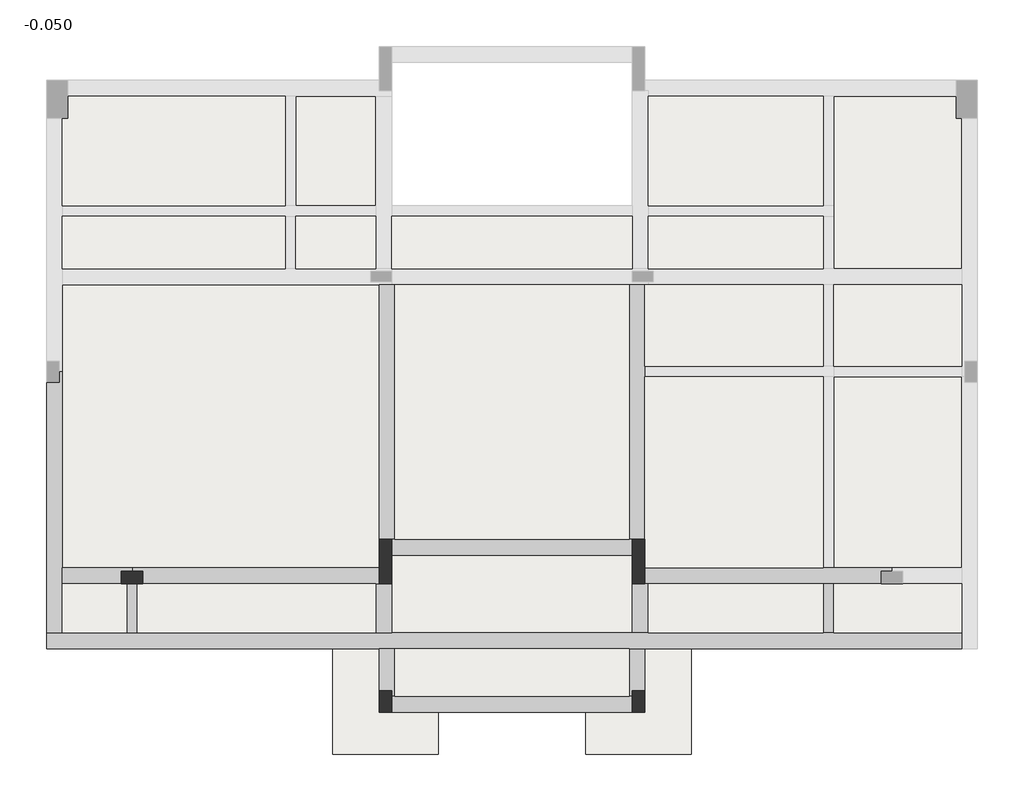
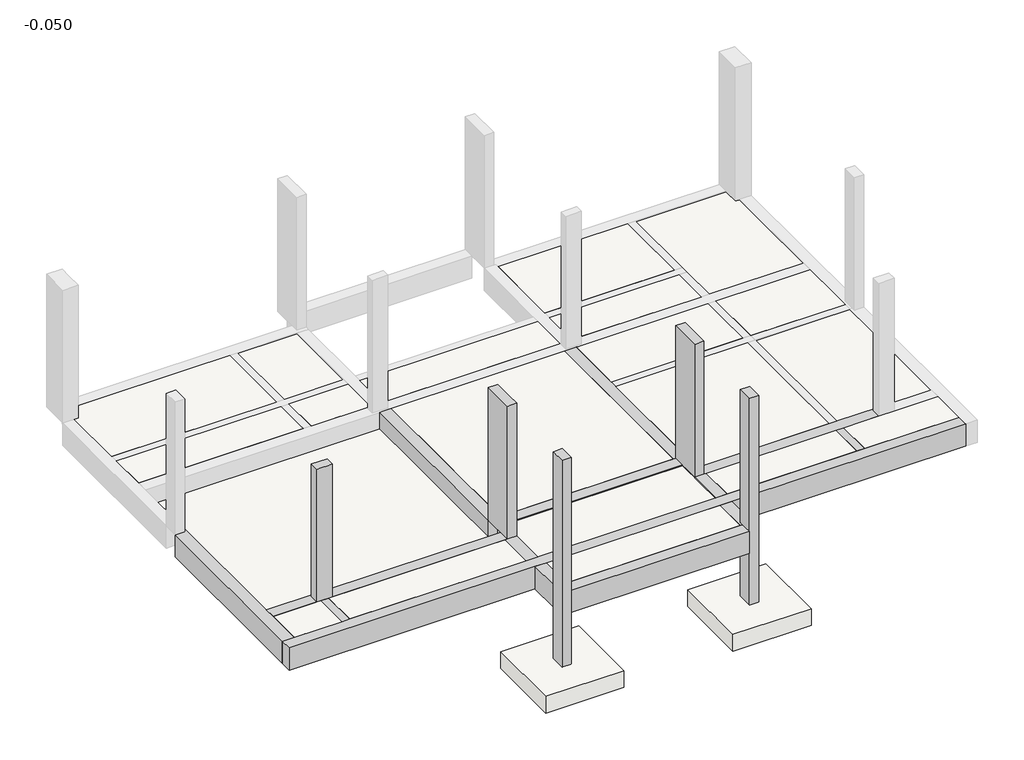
# One storey, part 1 of 2: 22 slabs, 15 beams, 5 columns.
"""IFC4 building model written with IfcOpenShell, lengths in millimetres."""

from ifc_helpers import new_model, si_unit, frame, origin, place, context, project, spatial, polyline, outline, extrude, faceted_brep, transform, mapped, element, save
from components import slab_2000mm_x_2000mm_x_450mm_d551b5b0

model = new_model("IFC4")

# Units and contexts
model_context = context("Model", 3, world=origin())
ifc_project = project(units=[si_unit("LENGTHUNIT", "METRE", prefix="MILLI")], contexts=[model_context])

# Site, building, storey
site = spatial("IfcSite", under=ifc_project)
building = spatial("IfcBuilding", under=site)
storey = spatial("IfcBuildingStorey", under=building, Name="-0.050", Elevation=-50.0)

# Beams
placement = place(None, origin())
element("IfcBeam", 1, ObjectType="混凝土 - 矩形梁 : 200 x 350mm", at=placement, inside=storey, context=model_context, shape_type="Brep", body=[
    faceted_brep([(-11718.804129, -3939.7578909, -50.0), (-11718.804129, -3939.7578909, -150.0), (-11718.804129, -3939.7578909, -400.0), (-11918.804129, -3939.7578909, -400.0), (-11918.804129, -3939.7578909, -150.0), (-11918.804129, -3939.7578909, -50.0), (-11918.804129, -4869.7578909, -50.0), (-11718.804129, -4869.7578909, -50.0), (-11918.804129, -4869.7578909, -400.0), (-11918.804129, -4869.7578909, -150.0), (-11718.804129, -4869.7578909, -400.0), (-11718.804129, -4869.7578909, -150.0)], [[[0, 1, 2, 3, 4, 5]], [[0, 5, 6, 7]], [[5, 4, 3, 8, 9, 6]], [[3, 2, 10, 8]], [[2, 1, 0, 7, 11, 10]], [[7, 6, 9, 8, 10, 11]]]),
])
element("IfcBeam", 2, ObjectType="混凝土 - 矩形梁 : 200 x 350mm", at=placement, inside=storey, context=model_context, shape_type="Brep", body=[
    faceted_brep([(1281.195871, -4869.7578909, -50.0), (1481.195871, -4869.7578909, -50.0), (1481.195871, -3939.7578909, -50.0), (1281.195871, -3939.7578909, -50.0), (1281.195871, -4869.7578909, -400.0), (1281.195871, -4869.7578909, -150.0), (1281.195871, -3939.7578909, -150.0), (1281.195871, -3939.7578909, -400.0), (1481.195871, -4869.7578909, -400.0), (1481.195871, -3939.7578909, -400.0), (1481.195871, -4869.7578909, -150.0), (1481.195871, -3939.7578909, -150.0)], [[[0, 1, 2, 3]], [[4, 5, 0, 3, 6, 7]], [[8, 4, 7, 9]], [[1, 10, 8, 9, 11, 2]], [[1, 0, 5, 4, 8, 10]], [[3, 2, 11, 9, 7, 6]]]),
])
element("IfcBeam", 3, ObjectType="混凝土 - 矩形梁 : 300 x 600mm", at=placement, inside=storey, context=model_context, shape_type="Brep", body=[
    faceted_brep([(-13438.804129, -4869.7578909, -50.0), (-13438.804129, -5169.7578909, -50.0), (-7138.804129, -5169.7578909, -50.0), (-6838.804129, -5169.7578909, -50.0), (-2398.804129, -5169.7578909, -50.0), (-2098.804129, -5169.7578909, -50.0), (3901.195871, -5169.7578909, -50.0), (3901.195871, -4869.7578909, -50.0), (1481.195871, -4869.7578909, -50.0), (1281.195871, -4869.7578909, -50.0), (-2038.804129, -4869.7578909, -50.0), (-2338.804129, -4869.7578909, -50.0), (-6898.804129, -4869.7578909, -50.0), (-7198.804129, -4869.7578909, -50.0), (-11718.804129, -4869.7578909, -50.0), (-11918.804129, -4869.7578909, -50.0), (-13138.804129, -4869.7578909, -50.0), (-13438.804129, -4869.7578909, -650.0), (3901.195871, -4869.7578909, -150.0), (3901.195871, -4869.7578909, -650.0), (-2038.804129, -4869.7578909, -650.0), (-2338.804129, -4869.7578909, -650.0), (-6898.804129, -4869.7578909, -650.0), (-7198.804129, -4869.7578909, -650.0), (-13138.804129, -4869.7578909, -650.0), (-13438.804129, -5169.7578909, -650.0), (3901.195871, -5169.7578909, -650.0), (-2098.804129, -5169.7578909, -650.0), (-2398.804129, -5169.7578909, -650.0), (-6838.804129, -5169.7578909, -650.0), (-7138.804129, -5169.7578909, -650.0)], [[[0, 1, 2, 3, 4, 5, 6, 7, 8, 9, 10, 11, 12, 13, 14, 15, 16]], [[17, 0, 16, 15, 14, 13, 12, 11, 10, 9, 8, 7, 18, 19, 20, 21, 22, 23, 24]], [[25, 17, 24, 23, 22, 21, 20, 19, 26, 27, 28, 29, 30]], [[1, 25, 30, 29, 28, 27, 26, 6, 5, 4, 3, 2]], [[1, 0, 17, 25]], [[7, 6, 26, 19, 18]]]),
])
element("IfcBeam", 4, ObjectType="混凝土 - 矩形梁 : 300 x 600mm", at=placement, inside=storey, context=model_context, shape_type="Brep", body=[
    faceted_brep([(-13138.804129, -4869.7578909, -50.0), (-13138.804129, -3939.7578909, -50.0), (-13138.804129, -3639.7578909, -50.0), (-13138.804129, 80.2421091, -50.0), (-13198.804129, 80.2421091, -50.0), (-13198.804129, -119.7578909, -50.0), (-13438.804129, -119.7578909, -50.0), (-13438.804129, -4869.7578909, -50.0), (-13138.804129, -4869.7578909, -150.0), (-13138.804129, -4869.7578909, -650.0), (-13138.804129, -3939.7578909, -650.0), (-13138.804129, -3639.7578909, -650.0), (-13138.804129, 80.2421091, -650.0), (-13438.804129, -4869.7578909, -650.0), (-13438.804129, -3939.7578909, -650.0), (-13438.804129, -119.7578909, -650.0), (-13238.804129, -119.7578909, -650.0), (-13198.804129, -119.7578909, -650.0), (-13198.804129, 80.2421091, -650.0)], [[[0, 1, 2, 3, 4, 5, 6, 7]], [[3, 2, 1, 0, 8, 9, 10, 11, 12]], [[12, 11, 10, 9, 13, 14, 15, 16, 17, 18]], [[13, 7, 6, 15, 14]], [[0, 7, 13, 9, 8]], [[3, 12, 18, 4]], [[17, 5, 4, 18]], [[5, 17, 16, 15, 6]]]),
])
element("IfcBeam", 5, ObjectType="混凝土 - 矩形梁 : 300 x 600mm", at=placement, inside=storey, context=model_context, shape_type="Brep", body=[
    faceted_brep([(2581.195871, -3639.7578909, -50.0), (1481.195871, -3639.7578909, -50.0), (1281.195871, -3639.7578909, -50.0), (-2098.804129, -3639.7578909, -50.0), (-2098.804129, -3939.7578909, -50.0), (-2038.804129, -3939.7578909, -50.0), (1281.195871, -3939.7578909, -50.0), (1481.195871, -3939.7578909, -50.0), (2381.195871, -3939.7578909, -50.0), (2381.195871, -3699.7578909, -50.0), (2581.195871, -3699.7578909, -50.0), (2581.195871, -3639.7578909, -650.0), (-2098.804129, -3639.7578909, -650.0), (-2098.804129, -3639.7578909, -150.0), (2581.195871, -3699.7578909, -650.0), (2381.195871, -3699.7578909, -650.0), (2381.195871, -3739.7578909, -650.0), (2381.195871, -3939.7578909, -650.0), (-2038.804129, -3939.7578909, -650.0), (-2098.804129, -3939.7578909, -650.0), (-2098.804129, -3739.7578909, -650.0)], [[[0, 1, 2, 3, 4, 5, 6, 7, 8, 9, 10]], [[0, 11, 12, 13, 3, 2, 1]], [[12, 11, 14, 15, 16, 17, 18, 19, 20]], [[4, 19, 18, 17, 8, 7, 6, 5]], [[4, 3, 13, 12, 20, 19]], [[9, 15, 14, 10]], [[15, 9, 8, 17, 16]], [[11, 0, 10, 14]]]),
])
element("IfcBeam", 6, ObjectType="混凝土 - 矩形梁 : 300 x 600mm", at=placement, inside=storey, context=model_context, shape_type="Brep", body=[
    faceted_brep([(-6898.804129, -3399.7578909, -50.0), (-6898.804129, -3099.7578909, -50.0), (-6898.804129, -3099.7578909, -650.0), (-6898.804129, -3299.7578909, -650.0), (-6898.804129, -3399.7578909, -650.0), (-6898.804129, -3399.7578909, -170.0), (-6898.804129, -3399.7578909, -70.0), (-2338.804129, -3399.7578909, -50.0), (-2338.804129, -3099.7578909, -50.0), (-2398.804129, -3099.7578909, -50.0), (-6838.804129, -3099.7578909, -50.0), (-2338.804129, -3099.7578909, -650.0), (-2398.804129, -3099.7578909, -650.0), (-6838.804129, -3099.7578909, -650.0), (-2338.804129, -3299.7578909, -650.0), (-2338.804129, -3399.7578909, -650.0), (-2338.804129, -3399.7578909, -170.0), (-2338.804129, -3399.7578909, -70.0)], [[[0, 1, 2, 3, 4, 5, 6]], [[1, 0, 7, 8, 9, 10]], [[2, 1, 10, 9, 8, 11, 12, 13]], [[4, 3, 2, 13, 12, 11, 14, 15]], [[0, 6, 5, 4, 15, 16, 17, 7]], [[7, 17, 16, 15, 14, 11, 8]]]),
])
element("IfcBeam", 7, ObjectType="混凝土 - 矩形梁 : 300 x 600mm", at=placement, inside=storey, context=model_context, shape_type="Brep", body=[
    faceted_brep([(-7138.804129, -3639.7578909, -50.0), (-11818.804129, -3639.7578909, -50.0), (-11818.804129, -3699.7578909, -50.0), (-11618.804129, -3699.7578909, -50.0), (-11618.804129, -3939.7578909, -50.0), (-7198.804129, -3939.7578909, -50.0), (-7138.804129, -3939.7578909, -50.0), (-7138.804129, -3639.7578909, -500.0), (-7138.804129, -3639.7578909, -650.0), (-11818.804129, -3639.7578909, -650.0), (-7138.804129, -3739.7578909, -650.0), (-7138.804129, -3939.7578909, -650.0), (-7198.804129, -3939.7578909, -650.0), (-11618.804129, -3939.7578909, -650.0), (-11618.804129, -3739.7578909, -650.0), (-11618.804129, -3699.7578909, -650.0), (-11818.804129, -3699.7578909, -650.0)], [[[0, 1, 2, 3, 4, 5, 6]], [[1, 0, 7, 8, 9]], [[9, 8, 10, 11, 12, 13, 14, 15, 16]], [[11, 6, 5, 4, 13, 12]], [[0, 6, 11, 10, 8, 7]], [[15, 3, 2, 16]], [[3, 15, 14, 13, 4]], [[1, 9, 16, 2]]]),
])
element("IfcBeam", 8, ObjectType="混凝土 - 矩形梁 : 300 x 600mm", at=placement, inside=storey, context=model_context, shape_type="Brep", body=[
    faceted_brep([(-12018.804129, -3699.7578909, -50.0), (-11818.804129, -3699.7578909, -50.0), (-11818.804129, -3639.7578909, -50.0), (-13138.804129, -3639.7578909, -50.0), (-13138.804129, -3939.7578909, -50.0), (-12018.804129, -3939.7578909, -50.0), (-11818.804129, -3639.7578909, -650.0), (-13138.804129, -3639.7578909, -650.0), (-13138.804129, -3639.7578909, -500.0), (-11818.804129, -3699.7578909, -650.0), (-12018.804129, -3699.7578909, -650.0), (-12018.804129, -3739.7578909, -650.0), (-12018.804129, -3939.7578909, -650.0), (-13138.804129, -3939.7578909, -650.0), (-13138.804129, -3939.7578909, -150.0)], [[[0, 1, 2, 3, 4, 5]], [[2, 6, 7, 8, 3]], [[9, 10, 11, 12, 13, 7, 6]], [[12, 5, 4, 14, 13]], [[0, 10, 9, 1]], [[10, 0, 5, 12, 11]], [[4, 3, 8, 7, 13, 14]], [[6, 2, 1, 9]]]),
])
element("IfcBeam", 9, ObjectType="混凝土 - 矩形梁 : 300 x 600mm", at=placement, inside=storey, context=model_context, shape_type="Brep", body=[
    faceted_brep([(-6838.804129, -3099.7578909, -50.0), (-6898.804129, -3099.7578909, -50.0), (-7138.804129, -3099.7578909, -50.0), (-7138.804129, -3099.7578909, -650.0), (-6898.804129, -3099.7578909, -650.0), (-6838.804129, -3099.7578909, -650.0), (-6838.804129, -3099.7578909, -150.0), (-6838.804129, 1730.2421091, -50.0), (-6898.804129, 1730.2421091, -50.0), (-7138.804129, 1730.2421091, -50.0), (-7138.804129, 1730.2421091, -500.0), (-7138.804129, 1730.2421091, -650.0), (-6898.804129, 1730.2421091, -650.0), (-6838.804129, 1730.2421091, -650.0), (-6838.804129, 1730.2421091, -150.0)], [[[0, 1, 2, 3, 4, 5, 6]], [[2, 1, 0, 7, 8, 9]], [[3, 2, 9, 10, 11]], [[5, 4, 3, 11, 12, 13]], [[0, 6, 5, 13, 14, 7]], [[7, 14, 13, 12, 11, 10, 9, 8]]]),
])
element("IfcBeam", 10, ObjectType="混凝土 - 矩形梁 : 300 x 600mm", at=placement, inside=storey, context=model_context, shape_type="Brep", body=[
    faceted_brep([(-2098.804129, -3099.7578909, -50.0), (-2338.804129, -3099.7578909, -50.0), (-2398.804129, -3099.7578909, -50.0), (-2398.804129, -3099.7578909, -150.0), (-2398.804129, -3099.7578909, -650.0), (-2338.804129, -3099.7578909, -650.0), (-2098.804129, -3099.7578909, -650.0), (-2098.804129, -19.7578909, -50.0), (-2098.804129, 180.2421091, -50.0), (-2098.804129, 1730.2421091, -50.0), (-2398.804129, 1730.2421091, -50.0), (-2098.804129, 1730.2421091, -650.0), (-2098.804129, 1730.2421091, -150.0), (-2398.804129, 1730.2421091, -650.0), (-2398.804129, 1730.2421091, -150.0)], [[[0, 1, 2, 3, 4, 5, 6]], [[2, 1, 0, 7, 8, 9, 10]], [[0, 6, 11, 12, 9, 8, 7]], [[6, 5, 4, 13, 11]], [[4, 3, 2, 10, 14, 13]], [[10, 9, 12, 11, 13, 14]]]),
])
element("IfcBeam", 11, ObjectType="混凝土 - 矩形梁 : 300 x 600mm", at=placement, inside=storey, context=model_context, shape_type="Brep", body=[
    faceted_brep([(-6898.804129, -3939.7578909, -50.0), (-7138.804129, -3939.7578909, -50.0), (-7198.804129, -3939.7578909, -50.0), (-7198.804129, -4869.7578909, -50.0), (-6898.804129, -4869.7578909, -50.0), (-6898.804129, -3939.7578909, -650.0), (-6898.804129, -4869.7578909, -70.0), (-6898.804129, -4869.7578909, -170.0), (-6898.804129, -4869.7578909, -650.0), (-7198.804129, -3939.7578909, -650.0), (-7138.804129, -3939.7578909, -650.0), (-7198.804129, -4869.7578909, -650.0), (-7198.804129, -3939.7578909, -150.0), (-7198.804129, -4869.7578909, -150.0)], [[[0, 1, 2, 3, 4]], [[5, 0, 4, 6, 7, 8]], [[9, 10, 5, 8, 11]], [[2, 12, 9, 11, 13, 3]], [[2, 1, 0, 5, 10, 9, 12]], [[4, 3, 13, 11, 8, 7, 6]]]),
])
element("IfcBeam", 12, ObjectType="混凝土 - 矩形梁 : 300 x 600mm", at=placement, inside=storey, context=model_context, shape_type="Brep", body=[
    faceted_brep([(-2038.804129, -3939.7578909, -50.0), (-2098.804129, -3939.7578909, -50.0), (-2338.804129, -3939.7578909, -50.0), (-2338.804129, -4869.7578909, -50.0), (-2038.804129, -4869.7578909, -50.0), (-2038.804129, -3939.7578909, -650.0), (-2038.804129, -3939.7578909, -150.0), (-2038.804129, -4869.7578909, -150.0), (-2038.804129, -4869.7578909, -650.0), (-2338.804129, -3939.7578909, -650.0), (-2098.804129, -3939.7578909, -650.0), (-2338.804129, -4869.7578909, -650.0), (-2338.804129, -4869.7578909, -170.0), (-2338.804129, -4869.7578909, -70.0)], [[[0, 1, 2, 3, 4]], [[5, 6, 0, 4, 7, 8]], [[9, 10, 5, 8, 11]], [[2, 9, 11, 12, 13, 3]], [[2, 1, 0, 6, 5, 10, 9]], [[4, 3, 13, 12, 11, 8, 7]]]),
])
element("IfcBeam", 13, ObjectType="混凝土 - 矩形梁 : 300 x 600mm", at=placement, inside=storey, context=model_context, shape_type="Brep", body=[
    faceted_brep([(-2338.804129, -6069.7578909, -50.0), (-2338.804129, -6369.7578909, -50.0), (-2338.804129, -6369.7578909, -650.0), (-2338.804129, -6069.7578909, -650.0), (-6898.804129, -6069.7578909, -50.0), (-6898.804129, -6069.7578909, -650.0), (-6898.804129, -6369.7578909, -650.0), (-6898.804129, -6369.7578909, -50.0), (-2398.804129, -6069.7578909, -50.0), (-6838.804129, -6069.7578909, -50.0), (-6838.804129, -6069.7578909, -650.0), (-2398.804129, -6069.7578909, -650.0)], [[[0, 1, 2, 3]], [[4, 5, 6, 7]], [[1, 0, 8, 9, 4, 7]], [[2, 1, 7, 6]], [[3, 2, 6, 5, 10, 11]], [[0, 3, 11, 10, 5, 4, 9, 8]]]),
])
element("IfcBeam", 14, ObjectType="混凝土 - 矩形梁 : 300 x 600mm", at=placement, inside=storey, context=model_context, shape_type="Brep", body=[
    faceted_brep([(-2098.804129, -5169.7578909, -50.0), (-2398.804129, -5169.7578909, -50.0), (-2398.804129, -6069.7578909, -50.0), (-2338.804129, -6069.7578909, -50.0), (-2338.804129, -5969.7578909, -50.0), (-2098.804129, -5969.7578909, -50.0), (-2098.804129, -5169.7578909, -650.0), (-2098.804129, -5969.7578909, -650.0), (-2398.804129, -5169.7578909, -650.0), (-2338.804129, -5969.7578909, -650.0), (-2338.804129, -6069.7578909, -650.0), (-2398.804129, -6069.7578909, -650.0), (-2398.804129, -5169.7578909, -150.0), (-2398.804129, -6069.7578909, -150.0)], [[[0, 1, 2, 3, 4, 5]], [[6, 0, 5, 7]], [[8, 6, 7, 9, 10, 11]], [[1, 12, 8, 11, 13, 2]], [[9, 4, 3, 10]], [[4, 9, 7, 5]], [[1, 0, 6, 8, 12]], [[3, 2, 13, 11, 10]]]),
])
element("IfcBeam", 15, ObjectType="混凝土 - 矩形梁 : 300 x 600mm", at=placement, inside=storey, context=model_context, shape_type="Brep", body=[
    faceted_brep([(-6838.804129, -5169.7578909, -50.0), (-7138.804129, -5169.7578909, -50.0), (-7138.804129, -5969.7578909, -50.0), (-6898.804129, -5969.7578909, -50.0), (-6898.804129, -6069.7578909, -50.0), (-6838.804129, -6069.7578909, -50.0), (-6838.804129, -5169.7578909, -650.0), (-6838.804129, -5169.7578909, -150.0), (-6838.804129, -6069.7578909, -150.0), (-6838.804129, -6069.7578909, -650.0), (-7138.804129, -5169.7578909, -650.0), (-6898.804129, -6069.7578909, -650.0), (-6898.804129, -5969.7578909, -650.0), (-7138.804129, -5969.7578909, -650.0)], [[[0, 1, 2, 3, 4, 5]], [[6, 7, 0, 5, 8, 9]], [[10, 6, 9, 11, 12, 13]], [[1, 10, 13, 2]], [[3, 12, 11, 4]], [[12, 3, 2, 13]], [[1, 0, 7, 6, 10]], [[5, 4, 11, 9, 8]]]),
])

# Columns
element("IfcColumn", 16, ObjectType="混凝土 - 矩形 - 柱 : 240 x 400mm", at=placement, inside=storey, context=model_context, shape_type="Brep", body=[
    faceted_brep([(-6898.804129, -5969.7578909, -2050.0), (-6898.804129, -6369.7578909, -2050.0), (-7138.804129, -6369.7578909, -2050.0), (-7138.804129, -5969.7578909, -2050.0), (-6898.804129, -5969.7578909, 3550.0), (-6898.804129, -6069.7578909, 3550.0), (-6898.804129, -6369.7578909, 3550.0), (-6898.804129, -6369.7578909, 2950.0), (-6898.804129, -6369.7578909, -50.0), (-6898.804129, -6369.7578909, -650.0), (-6898.804129, -5969.7578909, 2950.0), (-7138.804129, -6369.7578909, 3550.0), (-7138.804129, -5969.7578909, 3550.0), (-7138.804129, -5969.7578909, 2950.0)], [[[0, 1, 2, 3]], [[4, 5, 6, 7, 8, 9, 1, 0, 10]], [[6, 11, 2, 1, 9, 8, 7]], [[11, 12, 13, 3, 2]], [[12, 4, 10, 0, 3, 13]], [[4, 12, 11, 6, 5]]]),
])
element("IfcColumn", 17, ObjectType="混凝土 - 矩形 - 柱 : 240 x 400mm", at=placement, inside=storey, context=model_context, shape_type="Brep", body=[
    faceted_brep([(-2098.804129, -5969.7578909, -2050.0), (-2098.804129, -6369.7578909, -2050.0), (-2338.804129, -6369.7578909, -2050.0), (-2338.804129, -5969.7578909, -2050.0), (-2098.804129, -5969.7578909, 3550.0), (-2098.804129, -6369.7578909, 3550.0), (-2098.804129, -5969.7578909, 2950.0), (-2338.804129, -6369.7578909, 3550.0), (-2338.804129, -6369.7578909, 2950.0), (-2338.804129, -6369.7578909, -50.0), (-2338.804129, -6369.7578909, -650.0), (-2338.804129, -6069.7578909, 3550.0), (-2338.804129, -5969.7578909, 3550.0), (-2338.804129, -5969.7578909, 2950.0)], [[[0, 1, 2, 3]], [[4, 5, 1, 0, 6]], [[5, 7, 8, 9, 10, 2, 1]], [[7, 11, 12, 13, 3, 2, 10, 9, 8]], [[12, 4, 6, 0, 3, 13]], [[4, 12, 11, 7, 5]]]),
])
element("IfcColumn", 18, ObjectType="混凝土 - 矩形 - 柱 : 240 x 400mm", at=placement, inside=storey, context=model_context, shape_type="Brep", body=[
    faceted_brep([(-12018.804129, -3699.7578909, -50.0), (-11618.804129, -3699.7578909, -50.0), (-11618.804129, -3939.7578909, -50.0), (-12018.804129, -3939.7578909, -50.0), (-12018.804129, -3699.7578909, 3550.0), (-11618.804129, -3699.7578909, 3550.0), (-11618.804129, -3939.7578909, 3550.0), (-11718.804129, -3939.7578909, 3550.0), (-11918.804129, -3939.7578909, 3550.0), (-12018.804129, -3939.7578909, 3550.0)], [[[0, 1, 2, 3]], [[4, 5, 1, 0]], [[5, 6, 2, 1]], [[6, 7, 8, 9, 3, 2]], [[9, 4, 0, 3]], [[4, 9, 8, 7, 6, 5]]]),
])
element("IfcColumn", 19, ObjectType="混凝土 - 矩形 - 柱 : 240 x 840mm", at=placement, inside=storey, context=model_context, shape_type="Brep", body=[
    faceted_brep([(-6898.804129, -3099.7578909, -50.0), (-6898.804129, -3939.7578909, -50.0), (-7138.804129, -3939.7578909, -50.0), (-7138.804129, -3099.7578909, -50.0), (-6898.804129, -3099.7578909, 3550.0), (-6898.804129, -3399.7578909, 3550.0), (-6898.804129, -3639.7578909, 3550.0), (-6898.804129, -3939.7578909, 3550.0), (-6898.804129, -3099.7578909, 2950.0), (-7138.804129, -3939.7578909, 3550.0), (-7138.804129, -3099.7578909, 3550.0), (-7138.804129, -3099.7578909, 2950.0)], [[[0, 1, 2, 3]], [[4, 5, 6, 7, 1, 0, 8]], [[7, 9, 2, 1]], [[9, 10, 11, 3, 2]], [[10, 4, 8, 0, 3, 11]], [[4, 10, 9, 7, 6, 5]]]),
])
element("IfcColumn", 20, ObjectType="混凝土 - 矩形 - 柱 : 240 x 840mm", at=placement, inside=storey, context=model_context, shape_type="Brep", body=[
    faceted_brep([(-2098.804129, -3099.7578909, -50.0), (-2098.804129, -3939.7578909, -50.0), (-2338.804129, -3939.7578909, -50.0), (-2338.804129, -3099.7578909, -50.0), (-2098.804129, -3099.7578909, 3550.0), (-2098.804129, -3639.7578909, 3550.0), (-2098.804129, -3939.7578909, 3550.0), (-2098.804129, -3099.7578909, 2950.0), (-2338.804129, -3939.7578909, 3550.0), (-2338.804129, -3639.7578909, 3550.0), (-2338.804129, -3399.7578909, 3550.0), (-2338.804129, -3099.7578909, 3550.0)], [[[0, 1, 2, 3]], [[4, 5, 6, 1, 0, 7]], [[6, 8, 2, 1]], [[8, 9, 10, 11, 3, 2]], [[11, 4, 7, 0, 3]], [[4, 11, 10, 9, 8, 6, 5]]]),
])

# Slabs
element("IfcSlab", 21, ObjectType="常规 - 100mm", at=placement, inside=storey, context=model_context, shape_type="SweptSolid", body=[
    extrude(outline(polyline([(-8918.804129, 3220.2421091), (-13138.804129, 3220.2421091), (-13138.804129, 4880.2421091), (-13038.804129, 4880.2421091), (-13038.804129, 5300.2421091), (-8918.804129, 5300.2421091), (-8918.804129, 3220.2421091)])), frame((0.0, 0.0, -150.0), z_axis=(0.0, 0.0, 1.0), x_axis=(1.0, 0.0, 0.0)), (0.0, 0.0, 1.0), 100.0),
])
element("IfcSlab", 22, ObjectType="常规 - 100mm", at=placement, inside=storey, context=model_context, shape_type="SweptSolid", body=[
    extrude(outline(polyline([(1281.195871, 5300.2421091), (1281.195871, 3220.2421091), (-2038.804129, 3220.2421091), (-2038.804129, 5300.2421091), (1281.195871, 5300.2421091)])), frame((0.0, 0.0, -150.0), z_axis=(0.0, 0.0, 1.0), x_axis=(1.0, 0.0, 0.0)), (0.0, 0.0, 1.0), 100.0),
])
element("IfcSlab", 23, ObjectType="常规 - 100mm", at=placement, inside=storey, context=model_context, shape_type="SweptSolid", body=[
    extrude(outline(polyline([(-8918.804129, 3020.2421091), (-8918.804129, 2030.2421091), (-13138.804129, 2030.2421091), (-13138.804129, 3020.2421091), (-8918.804129, 3020.2421091)])), frame((0.0, 0.0, -150.0), z_axis=(0.0, 0.0, 1.0), x_axis=(1.0, 0.0, 0.0)), (0.0, 0.0, 1.0), 100.0),
])
element("IfcSlab", 24, ObjectType="常规 - 100mm", at=placement, inside=storey, context=model_context, shape_type="SweptSolid", body=[
    extrude(outline(polyline([(-7198.804129, 3020.2421091), (-7198.804129, 2030.2421091), (-8718.804129, 2030.2421091), (-8718.804129, 3020.2421091), (-7198.804129, 3020.2421091)])), frame((0.0, 0.0, -150.0), z_axis=(0.0, 0.0, 1.0), x_axis=(1.0, 0.0, 0.0)), (0.0, 0.0, 1.0), 100.0),
])
element("IfcSlab", 25, ObjectType="常规 - 100mm", at=placement, inside=storey, context=model_context, shape_type="SweptSolid", body=[
    extrude(outline(polyline([(-2338.804129, 3020.2421091), (-2338.804129, 2030.2421091), (-6898.804129, 2030.2421091), (-6898.804129, 3020.2421091), (-2338.804129, 3020.2421091)])), frame((0.0, 0.0, -150.0), z_axis=(0.0, 0.0, 1.0), x_axis=(1.0, 0.0, 0.0)), (0.0, 0.0, 1.0), 100.0),
])
element("IfcSlab", 26, ObjectType="常规 - 100mm", at=placement, inside=storey, context=model_context, shape_type="SweptSolid", body=[
    extrude(outline(polyline([(1281.195871, 3020.2421091), (1281.195871, 2030.2421091), (-2038.804129, 2030.2421091), (-2038.804129, 3020.2421091), (1281.195871, 3020.2421091)])), frame((0.0, 0.0, -150.0), z_axis=(0.0, 0.0, 1.0), x_axis=(1.0, 0.0, 0.0)), (0.0, 0.0, 1.0), 100.0),
])
element("IfcSlab", 27, ObjectType="常规 - 100mm", at=placement, inside=storey, context=model_context, shape_type="Brep", body=[
    faceted_brep([(-11918.804129, -3939.7578909, -150.0), (-11918.804129, -4869.7578909, -150.0), (-13138.804129, -4869.7578909, -150.0), (-13138.804129, -3939.7578909, -150.0), (-11918.804129, -3939.7578909, -50.0), (-12018.804129, -3939.7578909, -50.0), (-13138.804129, -3939.7578909, -50.0), (-13138.804129, -4869.7578909, -50.0), (-11918.804129, -4869.7578909, -50.0)], [[[0, 1, 2, 3]], [[4, 5, 6, 7, 8]], [[1, 0, 4, 8]], [[2, 1, 8, 7]], [[3, 2, 7, 6]], [[0, 3, 6, 5, 4]]]),
])
element("IfcSlab", 28, ObjectType="常规 - 100mm", at=placement, inside=storey, context=model_context, shape_type="Brep", body=[
    faceted_brep([(-7198.804129, -3939.7578909, -150.0), (-7198.804129, -4869.7578909, -150.0), (-11718.804129, -4869.7578909, -150.0), (-11718.804129, -3939.7578909, -150.0), (-7198.804129, -3939.7578909, -50.0), (-11618.804129, -3939.7578909, -50.0), (-11718.804129, -3939.7578909, -50.0), (-11718.804129, -4869.7578909, -50.0), (-7198.804129, -4869.7578909, -50.0)], [[[0, 1, 2, 3]], [[4, 5, 6, 7, 8]], [[1, 0, 4, 8]], [[2, 1, 8, 7]], [[3, 2, 7, 6]], [[0, 3, 6, 5, 4]]]),
])
element("IfcSlab", 29, ObjectType="常规 - 100mm", at=placement, inside=storey, context=model_context, shape_type="SweptSolid", body=[
    extrude(outline(polyline([(1281.195871, -3939.7578909), (1281.195871, -4869.7578909), (-2038.804129, -4869.7578909), (-2038.804129, -3939.7578909), (1281.195871, -3939.7578909)])), frame((0.0, 0.0, -150.0), z_axis=(0.0, 0.0, 1.0), x_axis=(1.0, 0.0, 0.0)), (0.0, 0.0, 1.0), 100.0),
])
element("IfcSlab", 30, ObjectType="常规 - 100mm", at=placement, inside=storey, context=model_context, shape_type="Brep", body=[
    faceted_brep([(3901.195871, -3939.7578909, -150.0), (3901.195871, -4869.7578909, -150.0), (1481.195871, -4869.7578909, -150.0), (1481.195871, -3939.7578909, -150.0), (3901.195871, -3939.7578909, -50.0), (2781.195871, -3939.7578909, -50.0), (2381.195871, -3939.7578909, -50.0), (1481.195871, -3939.7578909, -50.0), (1481.195871, -4869.7578909, -50.0), (3901.195871, -4869.7578909, -50.0)], [[[0, 1, 2, 3]], [[4, 5, 6, 7, 8, 9]], [[1, 0, 4, 9]], [[2, 1, 9, 8]], [[3, 2, 8, 7]], [[0, 3, 7, 6, 5, 4]]]),
])
element("IfcSlab", 31, ObjectType="常规 - 160mm", at=placement, inside=storey, context=model_context, shape_type="Brep", body=[
    faceted_brep([(-13138.804129, 1730.2421091, -660.0), (-7138.804129, 1730.2421091, -660.0), (-7138.804129, -3639.7578909, -660.0), (-13138.804129, -3639.7578909, -660.0), (-13138.804129, 1730.2421091, -500.0), (-13138.804129, -3639.7578909, -500.0), (-7138.804129, -3639.7578909, -500.0), (-7138.804129, 1730.2421091, -500.0), (-13138.804129, 1730.2421091, -650.0), (-7138.804129, 1730.2421091, -650.0), (-7138.804129, -3639.7578909, -650.0), (-13138.804129, -3639.7578909, -650.0)], [[[0, 1, 2, 3]], [[4, 5, 6, 7]], [[1, 0, 8, 4, 7, 9]], [[2, 1, 9, 7, 6, 10]], [[3, 2, 10, 6, 5, 11]], [[0, 3, 11, 5, 4, 8]]]),
])
element("IfcSlab", 32, ObjectType="常规 - 100mm", at=placement, inside=storey, context=model_context, shape_type="SweptSolid", body=[
    extrude(outline(polyline([(-7198.804129, 5300.2421091), (-7198.804129, 3220.2421091), (-8718.804129, 3220.2421091), (-8718.804129, 5300.2421091), (-7198.804129, 5300.2421091)])), frame((0.0, 0.0, -170.0), z_axis=(0.0, 0.0, 1.0), x_axis=(1.0, 0.0, 0.0)), (0.0, 0.0, 1.0), 100.0),
])
element("IfcSlab", 33, ObjectType="常规 - 100mm", at=placement, inside=storey, context=model_context, shape_type="SweptSolid", body=[
    extrude(outline(polyline([(-2398.804129, 1730.2421091), (-2398.804129, -3099.7578909), (-6838.804129, -3099.7578909), (-6838.804129, 1730.2421091), (-2398.804129, 1730.2421091)])), frame((0.0, 0.0, -150.0), z_axis=(0.0, 0.0, 1.0), x_axis=(1.0, 0.0, 0.0)), (0.0, 0.0, 1.0), 100.0),
])
element("IfcSlab", 34, ObjectType="常规 - 100mm", at=placement, inside=storey, context=model_context, shape_type="SweptSolid", body=[
    extrude(outline(polyline([(-2338.804129, -3399.7578909), (-2338.804129, -4869.7578909), (-6898.804129, -4869.7578909), (-6898.804129, -3399.7578909), (-2338.804129, -3399.7578909)])), frame((0.0, 0.0, -170.0), z_axis=(0.0, 0.0, 1.0), x_axis=(1.0, 0.0, 0.0)), (0.0, 0.0, 1.0), 100.0),
])
element("IfcSlab", 35, ObjectType="常规 - 100mm", at=placement, inside=storey, context=model_context, shape_type="SweptSolid", body=[
    extrude(outline(polyline([(-2398.804129, -5169.7578909), (-2398.804129, -6069.7578909), (-6838.804129, -6069.7578909), (-6838.804129, -5169.7578909), (-2398.804129, -5169.7578909)])), frame((0.0, 0.0, -150.0), z_axis=(0.0, 0.0, 1.0), x_axis=(1.0, 0.0, 0.0)), (0.0, 0.0, 1.0), 100.0),
])
element("IfcSlab", 36, ObjectType="常规 - 100mm", at=placement, inside=storey, context=model_context, shape_type="Brep", body=[
    faceted_brep([(1281.195871, 1730.2421091, -150.0), (1281.195871, 180.2421091, -150.0), (-2098.804129, 180.2421091, -150.0), (-2098.804129, 1730.2421091, -150.0), (1281.195871, 1730.2421091, -50.0), (-2038.804129, 1730.2421091, -50.0), (-2098.804129, 1730.2421091, -50.0), (-2098.804129, 180.2421091, -50.0), (1281.195871, 180.2421091, -50.0)], [[[0, 1, 2, 3]], [[4, 5, 6, 7, 8]], [[1, 0, 4, 8]], [[2, 1, 8, 7]], [[3, 2, 7, 6]], [[0, 3, 6, 5, 4]]]),
])
element("IfcSlab", 37, ObjectType="常规 - 100mm", at=placement, inside=storey, context=model_context, shape_type="Brep", body=[
    faceted_brep([(1281.195871, -19.7578909, -150.0), (1281.195871, -3639.7578909, -150.0), (-2098.804129, -3639.7578909, -150.0), (-2098.804129, -19.7578909, -150.0), (1281.195871, -19.7578909, -50.0), (-2098.804129, -19.7578909, -50.0), (-2098.804129, -3099.7578909, -50.0), (-2098.804129, -3639.7578909, -50.0), (1281.195871, -3639.7578909, -50.0)], [[[0, 1, 2, 3]], [[4, 5, 6, 7, 8]], [[1, 0, 4, 8]], [[2, 1, 8, 7]], [[3, 2, 7, 6, 5]], [[0, 3, 5, 4]]]),
])
element("IfcSlab", 38, ObjectType="常规 - 100mm", at=placement, inside=storey, context=model_context, shape_type="SweptSolid", body=[
    extrude(outline(polyline([(1481.195871, 5300.2421091), (3801.195871, 5300.2421091), (3801.195871, 4880.2421091), (3901.195871, 4880.2421091), (3901.195871, 2030.2421091), (1481.195871, 2030.2421091), (1481.195871, 5300.2421091)])), frame((0.0, 0.0, -170.0), z_axis=(0.0, 0.0, 1.0), x_axis=(1.0, 0.0, 0.0)), (0.0, 0.0, 1.0), 100.0),
])
element("IfcSlab", 39, ObjectType="常规 - 100mm", at=placement, inside=storey, context=model_context, shape_type="SweptSolid", body=[
    extrude(outline(polyline([(3901.195871, 1730.2421091), (3901.195871, 180.2421091), (1481.195871, 180.2421091), (1481.195871, 1730.2421091), (3901.195871, 1730.2421091)])), frame((0.0, 0.0, -150.0), z_axis=(0.0, 0.0, 1.0), x_axis=(1.0, 0.0, 0.0)), (0.0, 0.0, 1.0), 100.0),
])
element("IfcSlab", 40, ObjectType="常规 - 100mm", at=placement, inside=storey, context=model_context, shape_type="SweptSolid", body=[
    extrude(outline(polyline([(3901.195871, -19.7578909), (3901.195871, -3639.7578909), (1481.195871, -3639.7578909), (1481.195871, -19.7578909), (3901.195871, -19.7578909)])), frame((0.0, 0.0, -170.0), z_axis=(0.0, 0.0, 1.0), x_axis=(1.0, 0.0, 0.0)), (0.0, 0.0, 1.0), 100.0),
])
slab_2000mm_x_2000mm_x_450mm_shape = slab_2000mm_x_2000mm_x_450mm_d551b5b0(model_context)
element("IfcSlab", 41, ObjectType="独立基础 : 2000mm x 2000mm x 450mm", at=placement, inside=storey, context=model_context, shape_type="MappedRepresentation", body=[
    mapped(slab_2000mm_x_2000mm_x_450mm_shape, transform((-7018.804129, -6169.7578909, -2050.0), x_axis=(1.0, 0.0, 0.0), y_axis=(0.0, 1.0, 0.0), z_axis=(0.0, 0.0, 1.0))),
])
element("IfcSlab", 42, ObjectType="独立基础 : 2000mm x 2000mm x 450mm", at=placement, inside=storey, context=model_context, shape_type="MappedRepresentation", body=[
    mapped(slab_2000mm_x_2000mm_x_450mm_shape, transform((-2218.804129, -6169.7578909, -2050.0), x_axis=(1.0, 0.0, 0.0), y_axis=(0.0, 1.0, 0.0), z_axis=(0.0, 0.0, 1.0))),
])

save(model, "model.ifc")
